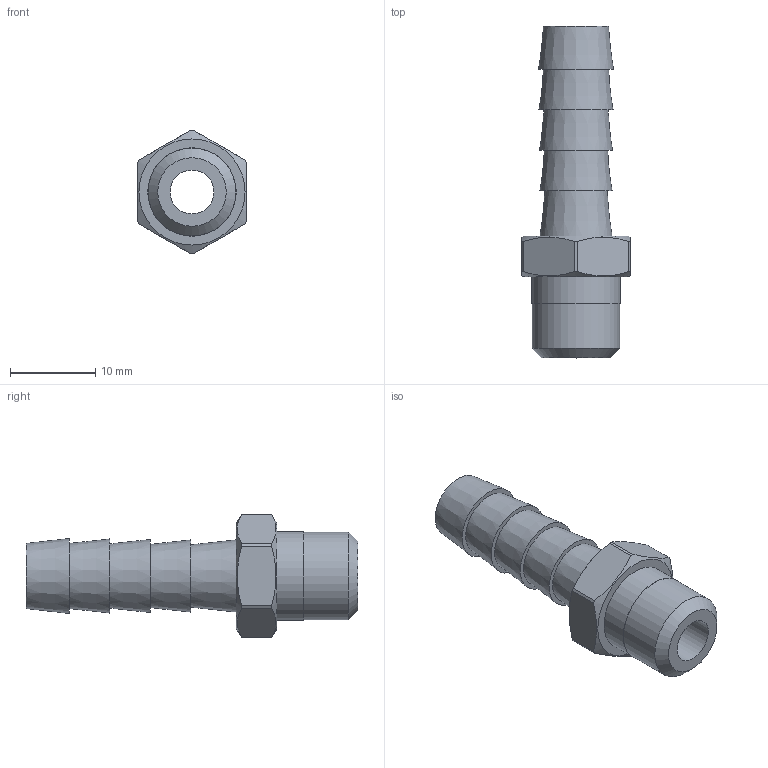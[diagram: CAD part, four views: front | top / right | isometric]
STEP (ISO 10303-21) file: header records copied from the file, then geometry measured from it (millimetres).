
FILE_DESCRIPTION(/* description */ (''),/* implementation_level */ '2;1');
FILE_NAME(/* name */ 'C:/Users/drich/Desktop/MB15-2 v3.step',/* time_stamp */ '2020-02-02T14:54:18-06:00',/* author */ (''),/* organization */ (''),/* preprocessor_version */ 'ST-DEVELOPER v18',/* originating_system */ 'Autodesk Translation Framework v8.12.0.6',/* authorisation */ '');
FILE_SCHEMA (('AUTOMOTIVE_DESIGN { 1 0 10303 214 3 1 1 }'));
Length unit declared in the file: inch
Products named in the file (2): MB15-2; 15 BARB ONLY
Assembly tree (1 placements, depth 2):
  MB15-2
    15 BARB ONLY
Bounding box: 12.7 x 38.91 x 14.48 mm (x, y, z)
Volume: 1798.3 mm3; surface area: 2107.9 mm2
Topology: 2 solids, 2 shells, 35 faces, 92 edges, 66 vertices
Faces by surface type: plane 15, cone 10, cylinder 10
Full cylindrical faces by diameter (mm): 5.156 x1, 5.537 x1, 10.312 x1, 10.363 x1
Entity records: 1191 total; most frequent: CARTESIAN_POINT 220, DIRECTION 210, ORIENTED_EDGE 184, EDGE_CURVE 92, AXIS2_PLACEMENT_3D 92, VERTEX_POINT 66, CIRCLE 54, EDGE_LOOP 44
